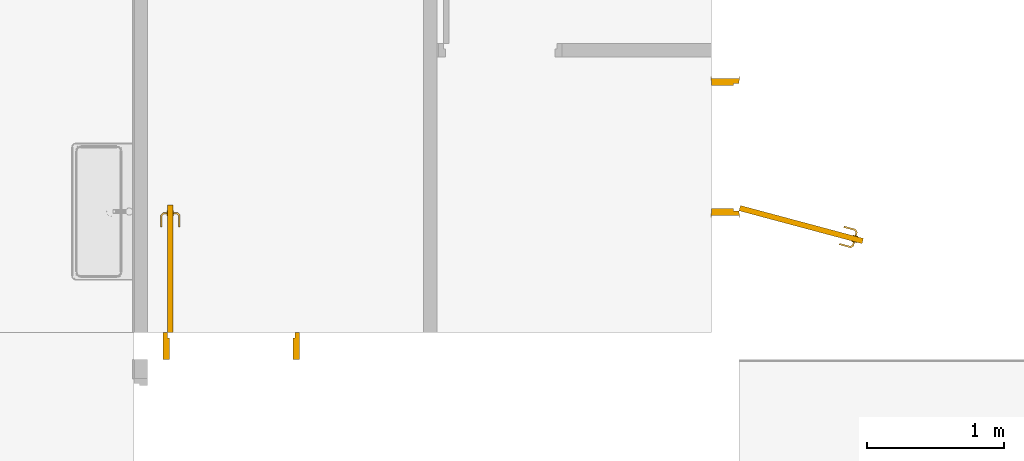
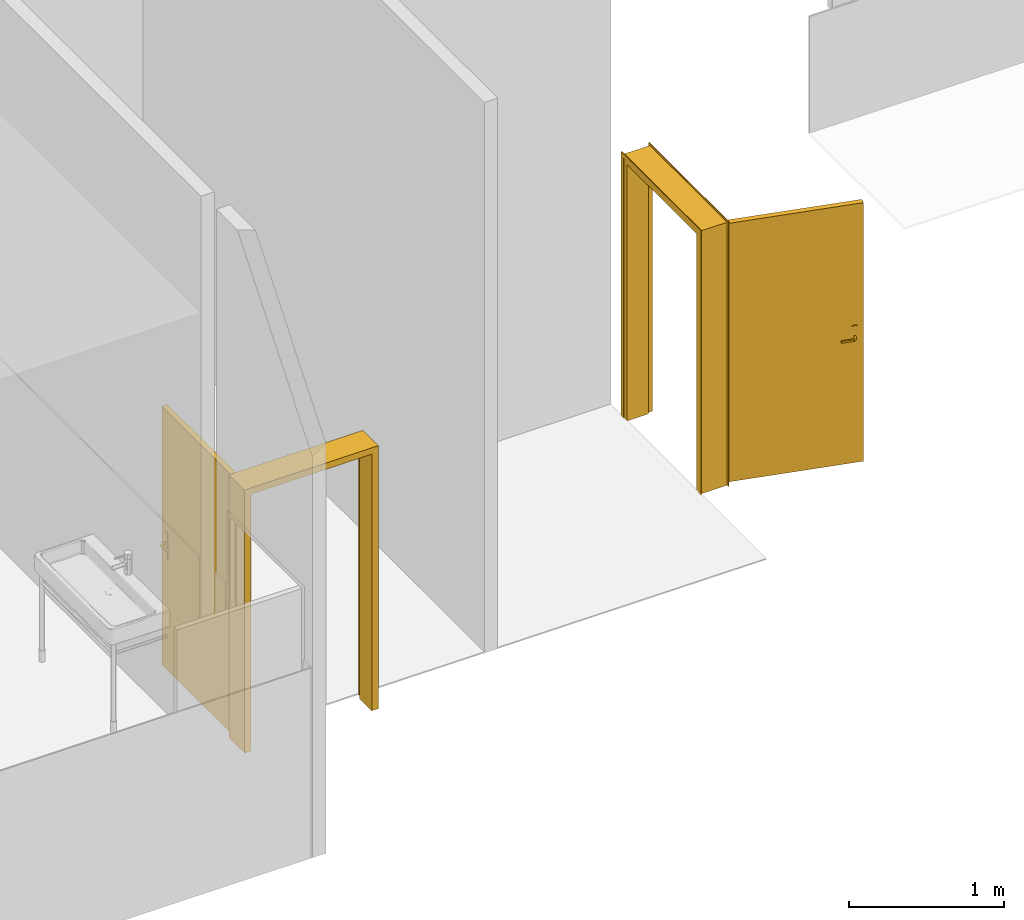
# One storey, part 14 of 18: 2 doors.
"""IFC2X3 building model written with IfcOpenShell, lengths in metres."""

from ifc_helpers import new_model, entity, si_unit, converted_unit, derived_unit, direction, frame, origin, place, context, subcontext, project, spatial, faceted_brep, source, transform, mapped, material, material_list, type_object, type_shapes, element, save


model = new_model("IFC2X3")

# Units and contexts
model_context = context("Model", 3, precision=1e-05, world=origin(), true_north=direction((6.12303176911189e-17, 1.0)))
body_context = subcontext(model_context, "Body", "Model", "MODEL_VIEW")
ifc_project = project(units=[si_unit("LENGTHUNIT", "METRE"), si_unit("AREAUNIT", "SQUARE_METRE"), si_unit("VOLUMEUNIT", "CUBIC_METRE"), converted_unit("PLANEANGLEUNIT", "DEGREE", entity("IfcRatioMeasure", 0.0174532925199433), si_unit("PLANEANGLEUNIT", "RADIAN"), dimensions=[0, 0, 0, 0, 0, 0, 0]), si_unit("MASSUNIT", "GRAM", prefix="KILO"), derived_unit("MASSDENSITYUNIT", [(si_unit("MASSUNIT", "GRAM", prefix="KILO"), 1), (si_unit("LENGTHUNIT", "METRE"), -3)]), si_unit("TIMEUNIT", "SECOND"), si_unit("FREQUENCYUNIT", "HERTZ"), si_unit("THERMODYNAMICTEMPERATUREUNIT", "DEGREE_CELSIUS"), derived_unit("THERMALTRANSMITTANCEUNIT", [(si_unit("MASSUNIT", "GRAM", prefix="KILO"), 1), (si_unit("THERMODYNAMICTEMPERATUREUNIT", "KELVIN"), -1), (si_unit("TIMEUNIT", "SECOND"), -3)]), derived_unit("VOLUMETRICFLOWRATEUNIT", [(si_unit("LENGTHUNIT", "METRE"), 3), (si_unit("TIMEUNIT", "SECOND"), -1)]), si_unit("ELECTRICCURRENTUNIT", "AMPERE"), si_unit("ELECTRICVOLTAGEUNIT", "VOLT"), si_unit("POWERUNIT", "WATT"), si_unit("FORCEUNIT", "NEWTON", prefix="KILO"), si_unit("ILLUMINANCEUNIT", "LUX"), si_unit("LUMINOUSFLUXUNIT", "LUMEN"), si_unit("LUMINOUSINTENSITYUNIT", "CANDELA"), derived_unit("USERDEFINED", [(si_unit("MASSUNIT", "GRAM", prefix="KILO"), -1), (si_unit("LENGTHUNIT", "METRE"), -2), (si_unit("TIMEUNIT", "SECOND"), 3), (si_unit("LUMINOUSFLUXUNIT", "LUMEN"), 1)]), derived_unit("LINEARVELOCITYUNIT", [(si_unit("LENGTHUNIT", "METRE"), 1), (si_unit("TIMEUNIT", "SECOND"), -1)]), si_unit("PRESSUREUNIT", "PASCAL"), derived_unit("USERDEFINED", [(si_unit("LENGTHUNIT", "METRE"), -2), (si_unit("MASSUNIT", "GRAM", prefix="KILO"), 1), (si_unit("TIMEUNIT", "SECOND"), -2)])], contexts=[model_context])

# Site, building, storey
site_placement = place(None, origin())
site = spatial("IfcSite", under=ifc_project, at=site_placement, Name="Surface", CompositionType="ELEMENT")
building_placement = place(site_placement, origin())
building = spatial("IfcBuilding", under=site, at=building_placement, Name="ExPREF", CompositionType="ELEMENT")
storey_placement = place(building_placement, frame((0.0, 0.0, -4.62)))
storey = spatial("IfcBuildingStorey", under=building, at=storey_placement, Name="R-1", CompositionType="ELEMENT", Elevation=-4.62)

# Doors
ifc_material_1 = material(Name="AA-Blanc satiné")
ifc_material_2 = material(Name="AA-Aluminium")
ifc_material_list_1 = material_list([ifc_material_1, ifc_material_2])
ifc_material_list_2 = material_list([ifc_material_1, ifc_material_2])
door_style_1 = type_object("IfcDoorStyle", Name="PP (0.93m x 2.04m) métal", ConstructionType="NOTDEFINED", OperationType="SINGLE_SWING_RIGHT", ParameterTakesPrecedence=False, Sizeable=False, material=ifc_material_list_2)
shared_shape_1 = source(origin(), body_context, "Body", "Brep", [
    faceted_brep([(-0.0761817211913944, -0.850046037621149, 0.992219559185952), (-0.0772300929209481, -0.853958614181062, 0.99221955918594), (-0.0782588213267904, -0.857797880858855, 0.992999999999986), (-0.0782588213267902, -0.857797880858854, 1.007), (-0.0772300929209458, -0.853958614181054, 1.00778044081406), (-0.076181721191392, -0.850046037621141, 1.00778044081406), (-0.0751529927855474, -0.846206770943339, 1.007), (-0.0751529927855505, -0.846206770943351, 0.993000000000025), (-0.053433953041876, -0.852026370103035, 1.007), (-0.0534339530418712, -0.852026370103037, 0.993000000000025), (-0.052872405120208, -0.856291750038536, 1.00778044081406), (-0.0523001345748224, -0.860638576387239, 1.00778044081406), (-0.0324759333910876, -0.849193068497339, 1.00778044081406), (-0.0359542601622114, -0.846524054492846, 1.00778044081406), (-0.0517385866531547, -0.864903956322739, 1.007), (-0.0517385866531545, -0.86490395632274, 0.992999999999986), (-0.0523001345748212, -0.860638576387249, 0.99221955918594), (-0.0528724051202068, -0.856291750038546, 0.992219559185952), (-0.0359542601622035, -0.846524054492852, 0.992219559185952), (-0.0324759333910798, -0.849193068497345, 0.99221955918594), (-0.0393674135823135, -0.84390504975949, 1.007), (-0.0393674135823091, -0.843905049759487, 0.993000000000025), (-0.0290627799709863, -0.851812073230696, 1.007), (-0.0290627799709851, -0.851812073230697, 0.992999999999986), (-0.0141599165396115, -0.76518645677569, 1.00778044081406), (-0.010247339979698, -0.766234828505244, 1.00778044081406), (-0.00640807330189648, -0.767263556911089, 1.007), (-0.0064080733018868, -0.767263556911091, 0.992999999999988), (-0.0102473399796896, -0.766234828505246, 0.99221955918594), (-0.014159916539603, -0.765186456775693, 0.992219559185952), (-0.0179991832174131, -0.764157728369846, 0.993000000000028), (-0.017999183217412, -0.764157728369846, 1.007), (-0.0286832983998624, -0.804031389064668, 1.007), (-0.0286833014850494, -0.804031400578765, 0.993000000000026), (-0.0231008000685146, -0.806379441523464, 1.0078786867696), (-0.0187280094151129, -0.813242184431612, 1.007), (-0.0187280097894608, -0.813242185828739, 0.992999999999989), (-0.0231008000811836, -0.806379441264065, 0.992121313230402)], [[[0, 1, 2, 3, 4, 5, 6, 7]], [[8, 9, 7, 6]], [[5, 10, 8, 6]], [[5, 4, 11, 12, 13, 10]], [[3, 14, 11, 4]], [[14, 3, 2, 15]], [[2, 1, 16, 15]], [[1, 0, 17, 18, 19, 16]], [[0, 7, 9, 17]], [[20, 21, 9, 8]], [[8, 10, 13, 20]], [[14, 22, 12, 11]], [[23, 22, 14, 15]], [[15, 16, 19, 23]], [[17, 9, 21, 18]], [[24, 25, 26, 27, 28, 29, 30, 31]], [[21, 20, 32, 31, 30, 33]], [[34, 24, 32]], [[25, 34, 35]], [[13, 32, 20]], [[24, 31, 32]], [[25, 35, 26]], [[35, 12, 22]], [[34, 12, 35]], [[34, 13, 12]], [[34, 32, 13]], [[24, 34, 25]], [[22, 23, 36, 27, 26, 35]], [[37, 28, 36]], [[36, 28, 27]], [[36, 23, 19]], [[18, 33, 37]], [[33, 18, 21]], [[30, 29, 33]], [[37, 29, 28]], [[37, 33, 29]], [[37, 36, 19]], [[18, 37, 19]]]),
    faceted_brep([(-0.124478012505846, -0.837105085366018, 1.00778044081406), (-0.1255263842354, -0.841017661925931, 1.00778044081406), (-0.126555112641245, -0.844856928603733, 1.00699999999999), (-0.126555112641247, -0.844856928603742, 0.992999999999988), (-0.125526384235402, -0.841017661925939, 0.99221955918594), (-0.124478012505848, -0.837105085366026, 0.992219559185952), (-0.123449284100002, -0.833265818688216, 0.993000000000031), (-0.123449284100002, -0.833265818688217, 1.007), (-0.150644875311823, -0.834287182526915, 1.00778044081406), (-0.153263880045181, -0.837700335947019, 1.007), (-0.14797586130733, -0.830808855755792, 1.00778044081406), (-0.157646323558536, -0.814059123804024, 1.00778044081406), (-0.161993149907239, -0.814631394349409, 1.00778044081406), (-0.145356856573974, -0.82739570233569, 1.007), (-0.145356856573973, -0.827395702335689, 0.993000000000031), (-0.147975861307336, -0.830808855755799, 0.992219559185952), (-0.150644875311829, -0.834287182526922, 0.99221955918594), (-0.161993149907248, -0.814631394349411, 0.99221955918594), (-0.157646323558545, -0.814059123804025, 0.992219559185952), (-0.153263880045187, -0.837700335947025, 0.992999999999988), (-0.166258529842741, -0.815192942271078, 1.007), (-0.153380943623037, -0.813497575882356, 1.007), (-0.153380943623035, -0.813497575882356, 0.993000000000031), (-0.16625852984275, -0.815192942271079, 0.992999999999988), (-0.143575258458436, -0.730537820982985, 1.007), (-0.139735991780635, -0.731566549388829, 1.00778044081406), (-0.135823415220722, -0.732614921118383, 1.00778044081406), (-0.13198414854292, -0.733643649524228, 1.00699999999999), (-0.131984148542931, -0.733643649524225, 0.993000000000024), (-0.135823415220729, -0.732614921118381, 0.992219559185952), (-0.139735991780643, -0.731566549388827, 0.99221955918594), (-0.143575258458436, -0.730537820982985, 0.992999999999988), (-0.14869115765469, -0.772812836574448, 1.0078786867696), (-0.155923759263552, -0.77662305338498, 1.007), (-0.142682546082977, -0.773570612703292, 1.007), (-0.14268254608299, -0.773570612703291, 0.993000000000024), (-0.1486911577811, -0.772812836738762, 0.992121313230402), (-0.155923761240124, -0.776623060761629, 0.992999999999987)], [[[0, 1, 2, 3, 4, 5, 6, 7]], [[2, 1, 8, 9]], [[1, 0, 10, 11, 12, 8]], [[0, 7, 13, 10]], [[14, 13, 7, 6]], [[5, 15, 14, 6]], [[5, 4, 16, 17, 18, 15]], [[3, 19, 16, 4]], [[9, 19, 3, 2]], [[9, 8, 12, 20]], [[10, 13, 21, 11]], [[22, 21, 13, 14]], [[14, 15, 18, 22]], [[16, 19, 23, 17]], [[20, 23, 19, 9]], [[24, 25, 26, 27, 28, 29, 30, 31]], [[32, 25, 33]], [[33, 25, 24]], [[33, 20, 12]], [[11, 34, 32]], [[34, 11, 21]], [[27, 26, 34]], [[32, 26, 25]], [[32, 34, 26]], [[32, 33, 12]], [[11, 32, 12]], [[21, 22, 35, 28, 27, 34]], [[36, 29, 35]], [[30, 36, 37]], [[18, 35, 22]], [[29, 28, 35]], [[30, 37, 31]], [[37, 17, 23]], [[36, 17, 37]], [[36, 18, 17]], [[36, 35, 18]], [[29, 36, 30]], [[23, 20, 33, 24, 31, 37]]]),
    faceted_brep([(-0.0867119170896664, -0.870026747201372, 0.870000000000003), (-0.0867119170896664, -0.870026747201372, 1.08), (-0.0842150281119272, -0.860708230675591, 1.08399601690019), (-0.081535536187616, -0.850708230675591, 1.08535898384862), (-0.0788560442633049, -0.840708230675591, 1.08399601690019), (-0.0763591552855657, -0.83138971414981, 1.08), (-0.0763591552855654, -0.831389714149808, 0.870000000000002), (-0.0788560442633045, -0.840708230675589, 0.866003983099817), (-0.0815355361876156, -0.850708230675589, 0.86464101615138), (-0.0842150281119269, -0.860708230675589, 0.866003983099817), (-0.0767059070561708, -0.852002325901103, 1.08535898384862), (-0.0793853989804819, -0.862002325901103, 1.08399601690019), (-0.0818822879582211, -0.871320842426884, 1.08), (-0.0818822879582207, -0.871320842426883, 0.870000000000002), (-0.0793853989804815, -0.862002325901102, 0.866003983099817), (-0.0767059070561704, -0.852002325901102, 0.86464101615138), (-0.0740264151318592, -0.842002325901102, 0.866003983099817), (-0.07152952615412, -0.832683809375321, 0.870000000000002), (-0.0715295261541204, -0.832683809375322, 1.08), (-0.0740264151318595, -0.842002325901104, 1.08399601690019)], [[[0, 1, 2, 3, 4, 5, 6, 7, 8, 9]], [[10, 11, 12, 13, 14, 15, 16, 17, 18, 19]], [[4, 19, 18, 5]], [[3, 10, 19, 4]], [[2, 11, 10, 3]], [[2, 1, 12, 11]], [[13, 12, 1, 0]], [[9, 14, 13, 0]], [[8, 15, 14, 9]], [[7, 16, 15, 8]], [[7, 6, 17, 16]], [[17, 6, 5, 18]]]),
    faceted_brep([(-0.130178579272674, -0.858379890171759, 0.870000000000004), (-0.130178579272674, -0.858379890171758, 1.08), (-0.127681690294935, -0.849061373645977, 1.08399601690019), (-0.125002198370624, -0.839061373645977, 1.08535898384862), (-0.122322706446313, -0.829061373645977, 1.08399601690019), (-0.119825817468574, -0.819742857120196, 1.08), (-0.119825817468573, -0.819742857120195, 0.870000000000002), (-0.122322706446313, -0.829061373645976, 0.866003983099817), (-0.125002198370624, -0.839061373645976, 0.86464101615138), (-0.127681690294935, -0.849061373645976, 0.866003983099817), (-0.125348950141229, -0.859673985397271, 1.08), (-0.125348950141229, -0.85967398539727, 0.870000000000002), (-0.12285206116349, -0.850355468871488, 0.866003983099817), (-0.120172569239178, -0.840355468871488, 0.86464101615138), (-0.117493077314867, -0.830355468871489, 0.866003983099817), (-0.114996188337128, -0.821036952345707, 0.870000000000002), (-0.114996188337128, -0.821036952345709, 1.08), (-0.117493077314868, -0.83035546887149, 1.08399601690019), (-0.120172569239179, -0.84035546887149, 1.08535898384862), (-0.12285206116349, -0.850355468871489, 1.08399601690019)], [[[0, 1, 2, 3, 4, 5, 6, 7, 8, 9]], [[10, 11, 12, 13, 14, 15, 16, 17, 18, 19]], [[9, 12, 11, 0]], [[8, 13, 12, 9]], [[7, 14, 13, 8]], [[7, 6, 15, 14]], [[15, 6, 5, 16]], [[4, 17, 16, 5]], [[3, 18, 17, 4]], [[2, 19, 18, 3]], [[2, 1, 10, 19]], [[11, 10, 1, 0]]]),
    faceted_brep([(-0.0970646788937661, -0.908663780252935, 2.04), (-0.0970646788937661, -0.908663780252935, 0.0), (0.143637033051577, -0.0103527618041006, 0.0), (0.143637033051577, -0.0103527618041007, 2.04), (-0.135701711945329, -0.898311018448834, 2.04), (0.105000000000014, 0.0, 2.04), (0.105000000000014, 0.0, 0.0), (-0.135701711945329, -0.898311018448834, 0.0)], [[[0, 1, 2, 3]], [[4, 5, 6, 7]], [[3, 5, 4, 0]], [[2, 6, 5, 3]], [[1, 7, 6, 2]], [[0, 4, 7, 1]]]),
    faceted_brep([(1.07000000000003, 0.0, 0.0), (1.03500000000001, 0.0, 0.0), (1.03500000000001, 0.040000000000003, 0.0), (1.02000000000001, 0.040000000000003, 0.0), (1.02000000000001, 0.200000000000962, 0.0), (1.07000000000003, 0.200000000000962, 0.0), (1.07000000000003, 0.200000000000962, 2.07500000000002), (1.07000000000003, 0.0, 2.07500000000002), (1.02000000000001, 0.200000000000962, 2.025), (0.120000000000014, 0.200000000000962, 2.025), (0.120000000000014, 0.200000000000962, 0.0), (0.0699999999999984, 0.200000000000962, 0.0), (0.0699999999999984, 0.200000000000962, 2.07500000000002), (1.02000000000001, 0.040000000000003, 2.025), (1.03500000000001, 0.040000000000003, 2.04), (0.105000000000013, 0.040000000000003, 2.04), (0.105000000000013, 0.040000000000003, 0.0), (0.120000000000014, 0.040000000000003, 0.0), (0.120000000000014, 0.040000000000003, 2.025), (1.03500000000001, 0.0, 2.04), (0.0699999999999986, 0.0, 2.07500000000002), (0.0699999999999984, 0.0, 0.0), (0.105000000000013, 0.0, 0.0), (0.105000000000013, 0.0, 2.04)], [[[0, 1, 2, 3, 4, 5]], [[5, 6, 7, 0]], [[4, 8, 9, 10, 11, 12, 6, 5]], [[3, 13, 8, 4]], [[2, 14, 15, 16, 17, 18, 13, 3]], [[1, 19, 14, 2]], [[0, 7, 20, 21, 22, 23, 19, 1]], [[12, 11, 21, 20]], [[21, 11, 10, 17, 16, 22]], [[18, 17, 10, 9]], [[23, 22, 16, 15]], [[6, 12, 20, 7]], [[13, 18, 9, 8]], [[19, 23, 15, 14]]]),
    faceted_brep([(1.05500000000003, 0.200000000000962, 0.0), (1.05500000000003, 0.205000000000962, 0.0), (1.08500000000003, 0.205000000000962, 0.0), (1.08500000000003, 0.200000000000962, 0.0), (1.08500000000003, 0.200000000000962, 2.09000000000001), (0.0550000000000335, 0.200000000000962, 2.09000000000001), (0.0550000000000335, 0.200000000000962, 0.0), (0.0850000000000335, 0.200000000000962, 0.0), (0.0850000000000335, 0.200000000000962, 2.06000000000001), (1.05500000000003, 0.200000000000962, 2.06000000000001), (1.08500000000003, 0.205000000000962, 2.09000000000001), (1.05500000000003, 0.205000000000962, 2.06000000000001), (0.0850000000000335, 0.205000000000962, 2.06000000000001), (0.0850000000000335, 0.205000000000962, 0.0), (0.0550000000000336, 0.205000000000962, 0.0), (0.0550000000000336, 0.205000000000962, 2.09000000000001)], [[[0, 1, 2, 3]], [[3, 4, 5, 6, 7, 8, 9, 0]], [[2, 10, 4, 3]], [[1, 11, 12, 13, 14, 15, 10, 2]], [[0, 9, 11, 1]], [[7, 6, 14, 13]], [[8, 7, 13, 12]], [[15, 14, 6, 5]], [[10, 15, 5, 4]], [[9, 8, 12, 11]]]),
    faceted_brep([(1.08500000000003, -0.00500000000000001, 0.0), (1.08500000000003, -0.00500000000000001, 2.09000000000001), (0.0550000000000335, -0.00500000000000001, 2.09000000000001), (0.0550000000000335, -0.00500000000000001, 0.0), (0.0850000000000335, -0.00500000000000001, 0.0), (0.0850000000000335, -0.00500000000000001, 2.06000000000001), (1.05500000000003, -0.00500000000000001, 2.06000000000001), (1.05500000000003, -0.00500000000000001, 0.0), (1.08500000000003, 0.0, 0.0), (1.08500000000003, 0.0, 2.09000000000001), (1.05500000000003, 0.0, 0.0), (1.05500000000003, 0.0, 2.06000000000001), (0.0850000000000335, 0.0, 2.06000000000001), (0.0850000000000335, 0.0, 0.0), (0.0550000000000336, 0.0, 0.0), (0.0550000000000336, 0.0, 2.09000000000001)], [[[0, 1, 2, 3, 4, 5, 6, 7]], [[8, 9, 1, 0]], [[10, 11, 12, 13, 14, 15, 9, 8]], [[7, 6, 11, 10]], [[5, 4, 13, 12]], [[15, 14, 3, 2]], [[9, 15, 2, 1]], [[6, 5, 12, 11]], [[4, 3, 14, 13]], [[7, 10, 8, 0]]]),
])
type_shapes(door_style_1, [shared_shape_1])
door_1_placement = place(storey_placement, frame((41.8597436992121, -192.476488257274, 0.0), z_axis=(0.0, 0.0, 1.0), x_axis=(0.0, 1.0, 0.0)))
element("IfcDoor", 1, at=door_1_placement, inside=storey, type_object=door_style_1, material=ifc_material_list_1, Name="Int. Simple:PP (0.93m x 2.04m) métal", ObjectType="PP (0.93m x 2.04m) métal", OverallHeight=2.09000000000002, OverallWidth=1.2699911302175, context=body_context, shape_type="MappedRepresentation", body=[
    mapped(shared_shape_1, transform((0.0, 0.0, 0.0), scale=1.0)),
])
door_style_2 = type_object("IfcDoorStyle", Name="PP (0.93m x 2.04m)", ConstructionType="NOTDEFINED", OperationType="SINGLE_SWING_LEFT", ParameterTakesPrecedence=False, Sizeable=False, material=ifc_material_1)
shared_shape_2 = source(origin(), body_context, "Body", "Brep", [
    faceted_brep([(0.919999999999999, -0.872025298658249, 1.00778044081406), (0.919999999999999, -0.876000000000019, 1.007), (0.919999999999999, -0.876000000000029, 0.992999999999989), (0.919999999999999, -0.872025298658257, 0.99221955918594), (0.919999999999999, -0.867974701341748, 0.992219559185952), (0.919999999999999, -0.863999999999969, 0.993000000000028), (0.919999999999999, -0.86399999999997, 1.007), (0.919999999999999, -0.867974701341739, 1.00778044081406), (0.897514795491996, -0.863999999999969, 0.993000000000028), (0.897514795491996, -0.863999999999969, 1.007), (0.895868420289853, -0.867974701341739, 1.00778044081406), (0.882054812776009, -0.854161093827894, 1.00778044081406), (0.8780042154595, -0.855838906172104, 1.00778044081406), (0.894190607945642, -0.872025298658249, 1.00778044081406), (0.892544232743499, -0.876000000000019, 1.007), (0.892544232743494, -0.876000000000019, 0.992999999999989), (0.894190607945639, -0.872025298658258, 0.99221955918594), (0.87800421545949, -0.855838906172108, 0.99221955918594), (0.882054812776, -0.854161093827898, 0.992219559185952), (0.895868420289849, -0.867974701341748, 0.992219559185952), (0.886029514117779, -0.852514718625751, 0.993000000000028), (0.886029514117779, -0.852514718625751, 1.007), (0.87402951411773, -0.857485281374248, 1.007), (0.874029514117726, -0.857485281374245, 0.992999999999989), (0.886029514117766, -0.769954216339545, 0.993000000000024), (0.882054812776, -0.769954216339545, 0.992219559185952), (0.87800421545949, -0.769954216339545, 0.99221955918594), (0.874029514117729, -0.769954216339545, 0.992999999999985), (0.87402951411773, -0.769954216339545, 1.007), (0.878004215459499, -0.769954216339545, 1.00778044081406), (0.882054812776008, -0.769954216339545, 1.00778044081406), (0.886029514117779, -0.769954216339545, 1.007), (0.886029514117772, -0.811234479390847, 0.993000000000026), (0.886029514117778, -0.811234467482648, 1.007), (0.880029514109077, -0.812057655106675, 1.0078786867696), (0.87402951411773, -0.81755479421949, 1.007), (0.874029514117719, -0.8175547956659, 0.992999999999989), (0.880029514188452, -0.812057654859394, 0.992121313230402)], [[[0, 1, 2, 3, 4, 5, 6, 7]], [[6, 5, 8, 9]], [[9, 10, 7, 6]], [[10, 11, 12, 13, 0, 7]], [[13, 14, 1, 0]], [[2, 1, 14, 15]], [[15, 16, 3, 2]], [[16, 17, 18, 19, 4, 3]], [[19, 8, 5, 4]], [[9, 8, 20, 21]], [[21, 11, 10, 9]], [[12, 22, 14, 13]], [[15, 14, 22, 23]], [[23, 17, 16, 15]], [[18, 20, 8, 19]], [[24, 25, 26, 27, 28, 29, 30, 31]], [[21, 20, 32, 24, 31, 33]], [[33, 30, 34]], [[35, 34, 29]], [[21, 33, 11]], [[33, 31, 30]], [[28, 35, 29]], [[22, 12, 35]], [[35, 12, 34]], [[12, 11, 34]], [[11, 33, 34]], [[29, 34, 30]], [[22, 35, 28, 27, 36, 23]], [[36, 26, 37]], [[27, 26, 36]], [[17, 23, 36]], [[37, 32, 18]], [[20, 18, 32]], [[32, 25, 24]], [[26, 25, 37]], [[25, 32, 37]], [[17, 36, 37]], [[17, 37, 18]]]),
    faceted_brep([(0.969999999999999, -0.872025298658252, 1.00778044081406), (0.969999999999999, -0.867974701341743, 1.00778044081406), (0.969999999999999, -0.863999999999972, 1.00699999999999), (0.969999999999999, -0.863999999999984, 0.993000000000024), (0.969999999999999, -0.867974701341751, 0.992219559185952), (0.969999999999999, -0.87202529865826, 0.99221955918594), (0.969999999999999, -0.876000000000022, 0.992999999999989), (0.969999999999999, -0.876000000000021, 1.007), (0.997650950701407, -0.876000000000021, 1.007), (0.996004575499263, -0.872025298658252, 1.00778044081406), (1.01205345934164, -0.855976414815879, 1.00778044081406), (1.00800286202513, -0.854298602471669, 1.00778044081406), (0.994326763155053, -0.867974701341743, 1.00778044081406), (0.992680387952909, -0.863999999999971, 1.007), (0.992680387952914, -0.863999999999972, 0.993000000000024), (0.994326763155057, -0.867974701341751, 0.992219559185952), (1.00800286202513, -0.854298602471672, 0.992219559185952), (1.01205345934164, -0.855976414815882, 0.99221955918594), (0.996004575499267, -0.87202529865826, 0.99221955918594), (0.997650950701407, -0.876000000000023, 0.992999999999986), (1.0160281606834, -0.857622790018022, 1.007), (1.00402816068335, -0.852652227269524, 1.007), (1.00402816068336, -0.852652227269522, 0.993000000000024), (1.01602816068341, -0.857622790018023, 0.992999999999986), (1.01602816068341, -0.769981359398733, 0.992999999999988), (1.01205345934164, -0.769981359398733, 0.99221955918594), (1.00800286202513, -0.769981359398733, 0.992219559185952), (1.00402816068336, -0.769981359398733, 0.993000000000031), (1.00402816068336, -0.769981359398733, 1.007), (1.00800286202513, -0.769981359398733, 1.00778044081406), (1.01205345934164, -0.769981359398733, 1.00778044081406), (1.01602816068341, -0.769981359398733, 1.00699999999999), (1.01602816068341, -0.817692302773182, 1.007), (1.01002816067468, -0.812139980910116, 1.0078786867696), (1.00402816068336, -0.811316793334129, 1.007), (1.00402816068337, -0.811316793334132, 0.993000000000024), (1.01002816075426, -0.812139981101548, 0.992121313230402), (1.01602816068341, -0.817692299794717, 0.992999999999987)], [[[0, 1, 2, 3, 4, 5, 6, 7]], [[8, 9, 0, 7]], [[9, 10, 11, 12, 1, 0]], [[12, 13, 2, 1]], [[3, 2, 13, 14]], [[14, 15, 4, 3]], [[15, 16, 17, 18, 5, 4]], [[18, 19, 6, 5]], [[7, 6, 19, 8]], [[20, 10, 9, 8]], [[11, 21, 13, 12]], [[14, 13, 21, 22]], [[22, 16, 15, 14]], [[17, 23, 19, 18]], [[8, 19, 23, 20]], [[24, 25, 26, 27, 28, 29, 30, 31]], [[32, 30, 33]], [[31, 30, 32]], [[10, 20, 32]], [[33, 34, 11]], [[21, 11, 34]], [[34, 29, 28]], [[30, 29, 33]], [[29, 34, 33]], [[10, 32, 33]], [[10, 33, 11]], [[22, 21, 34, 28, 27, 35]], [[35, 26, 36]], [[37, 36, 25]], [[22, 35, 16]], [[35, 27, 26]], [[24, 37, 25]], [[23, 17, 37]], [[37, 17, 36]], [[17, 16, 36]], [[16, 35, 36]], [[25, 36, 26]], [[20, 23, 37, 24, 31, 32]]]),
    faceted_brep([(0.924999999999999, -0.859647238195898, 0.866003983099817), (0.924999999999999, -0.849999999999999, 0.870000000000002), (0.924999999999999, -0.850000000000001, 1.08), (0.924999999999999, -0.8596472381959, 1.08399601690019), (0.924999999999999, -0.870000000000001, 1.08535898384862), (0.924999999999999, -0.880352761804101, 1.08399601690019), (0.924999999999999, -0.89, 1.08), (0.924999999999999, -0.889999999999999, 0.870000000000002), (0.924999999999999, -0.8803527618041, 0.866003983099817), (0.924999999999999, -0.869999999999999, 0.86464101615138), (0.919999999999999, -0.8596472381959, 1.08399601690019), (0.92, -0.850000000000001, 1.08), (0.92, -0.849999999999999, 0.870000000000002), (0.919999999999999, -0.859647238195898, 0.866003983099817), (0.919999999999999, -0.869999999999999, 0.86464101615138), (0.919999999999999, -0.8803527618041, 0.866003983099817), (0.919999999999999, -0.89, 0.870000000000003), (0.919999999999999, -0.89, 1.08), (0.919999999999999, -0.880352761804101, 1.08399601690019), (0.919999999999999, -0.870000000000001, 1.08535898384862)], [[[0, 1, 2, 3, 4, 5, 6, 7, 8, 9]], [[10, 11, 12, 13, 14, 15, 16, 17, 18, 19]], [[11, 10, 3, 2]], [[3, 10, 19, 4]], [[19, 18, 5, 4]], [[18, 17, 6, 5]], [[7, 6, 17, 16]], [[16, 15, 8, 7]], [[8, 15, 14, 9]], [[14, 13, 0, 9]], [[13, 12, 1, 0]], [[2, 1, 12, 11]]]),
    faceted_brep([(0.969999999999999, -0.859647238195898, 0.866003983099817), (0.969999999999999, -0.849999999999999, 0.870000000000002), (0.969999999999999, -0.850000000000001, 1.08), (0.969999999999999, -0.8596472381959, 1.08399601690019), (0.969999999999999, -0.87, 1.08535898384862), (0.969999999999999, -0.880352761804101, 1.08399601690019), (0.969999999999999, -0.89, 1.08), (0.969999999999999, -0.889999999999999, 0.870000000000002), (0.969999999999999, -0.8803527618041, 0.866003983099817), (0.969999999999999, -0.869999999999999, 0.86464101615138), (0.964999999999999, -0.8596472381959, 1.08399601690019), (0.965, -0.850000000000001, 1.08), (0.965, -0.849999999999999, 0.870000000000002), (0.964999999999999, -0.859647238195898, 0.866003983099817), (0.964999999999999, -0.869999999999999, 0.86464101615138), (0.964999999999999, -0.8803527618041, 0.866003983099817), (0.964999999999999, -0.89, 0.870000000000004), (0.964999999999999, -0.89, 1.08), (0.964999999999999, -0.880352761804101, 1.08399601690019), (0.964999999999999, -0.87, 1.08535898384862)], [[[0, 1, 2, 3, 4, 5, 6, 7, 8, 9]], [[10, 11, 12, 13, 14, 15, 16, 17, 18, 19]], [[16, 15, 8, 7]], [[8, 15, 14, 9]], [[14, 13, 0, 9]], [[13, 12, 1, 0]], [[2, 1, 12, 11]], [[11, 10, 3, 2]], [[3, 10, 19, 4]], [[19, 18, 5, 4]], [[18, 17, 6, 5]], [[7, 6, 17, 16]]]),
    faceted_brep([(0.924999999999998, -0.93, 2.04), (0.924999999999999, 0.0, 2.04), (0.924999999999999, 0.0, 0.0), (0.924999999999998, -0.93, 0.0), (0.964999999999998, -0.93, 2.04), (0.964999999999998, -0.93, 0.0), (0.965, 0.0, 0.0), (0.965, 0.0, 2.04)], [[[0, 1, 2, 3]], [[4, 5, 6, 7]], [[1, 0, 4, 7]], [[2, 1, 7, 6]], [[3, 2, 6, 5]], [[0, 3, 5, 4]]]),
    faceted_brep([(0.0, 0.0, 0.0), (0.0, 0.200000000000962, 0.0), (0.0499999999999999, 0.200000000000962, 0.0), (0.0499999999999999, 0.0400000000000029, 0.0), (0.0349999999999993, 0.040000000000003, 0.0), (0.0349999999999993, 0.0, 0.0), (0.0, 0.0, 2.07500000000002), (0.0, 0.200000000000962, 2.07500000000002), (1.0, 0.200000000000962, 2.07500000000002), (1.0, 0.200000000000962, 0.0), (0.95, 0.200000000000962, 0.0), (0.95, 0.200000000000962, 2.025), (0.0500000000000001, 0.200000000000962, 2.025), (0.05, 0.0400000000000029, 2.025), (0.95, 0.040000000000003, 2.025), (0.95, 0.040000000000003, 0.0), (0.965, 0.040000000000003, 0.0), (0.965, 0.040000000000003, 2.04), (0.0349999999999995, 0.040000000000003, 2.04), (0.0349999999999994, 0.0, 2.04), (0.965, 0.0, 2.04), (0.965, 0.0, 0.0), (1.0, 0.0, 0.0), (1.0, 0.0, 2.07500000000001)], [[[0, 1, 2, 3, 4, 5]], [[1, 0, 6, 7]], [[2, 1, 7, 8, 9, 10, 11, 12]], [[3, 2, 12, 13]], [[4, 3, 13, 14, 15, 16, 17, 18]], [[5, 4, 18, 19]], [[0, 5, 19, 20, 21, 22, 23, 6]], [[8, 23, 22, 9]], [[22, 21, 16, 15, 10, 9]], [[14, 11, 10, 15]], [[20, 17, 16, 21]], [[7, 6, 23, 8]], [[13, 12, 11, 14]], [[19, 18, 17, 20]]]),
])
type_shapes(door_style_2, [shared_shape_2])
door_2_placement = place(storey_placement, frame((38.6497436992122, -193.259651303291, 0.0), z_axis=(0.0, 0.0, 1.0), x_axis=(-1.0, 0.0, 0.0)))
element("IfcDoor", 2, at=door_2_placement, inside=storey, type_object=door_style_2, material=ifc_material_1, Name="Porte intérieur bois:PP (0.93m x 2.04m)", ObjectType="PP (0.93m x 2.04m)", OverallHeight=2.07500000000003, OverallWidth=1.01602816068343, context=body_context, shape_type="MappedRepresentation", body=[
    mapped(shared_shape_2, transform((0.0, 0.0, 0.0), scale=1.0)),
])

save(model, "model.ifc")
